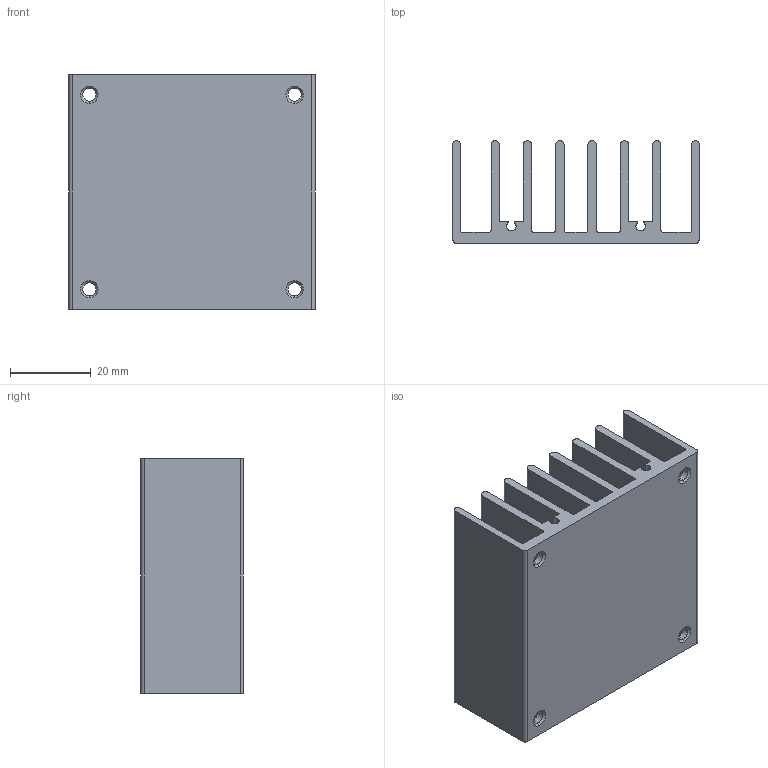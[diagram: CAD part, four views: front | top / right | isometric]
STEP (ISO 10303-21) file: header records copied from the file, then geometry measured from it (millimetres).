
FILE_DESCRIPTION (( 'STEP AP203' ), '1' );
FILE_NAME ('CHB SERIES 鋁擠型散熱片(G6610130402)-M-C092-04-A.STEP', '2022-07-28T02:24:42', ( 'cincon' ), ( '' ), 'SwSTEP 2.0', 'SolidWorks 2020', '' );
FILE_SCHEMA (( 'CONFIG_CONTROL_DESIGN' ));
Length unit declared in the file: millimetre
Products named in the file (1): CHB SERIES 鋁擠型散熱片(G6610130402)-M-C092-04-A
Bounding box: 61 x 25.4 x 58 mm (x, y, z)
Volume: 31886.1 mm3; surface area: 28981.7 mm2
Topology: 1 solids, 1 shells, 84 faces, 230 edges, 148 vertices
Faces by surface type: cylinder 40, plane 28, cone 16
Entity records: 2775 total; most frequent: DIRECTION 496, CARTESIAN_POINT 463, ORIENTED_EDGE 460, EDGE_CURVE 230, AXIS2_PLACEMENT_3D 181, VERTEX_POINT 148, VECTOR 134, LINE 134
